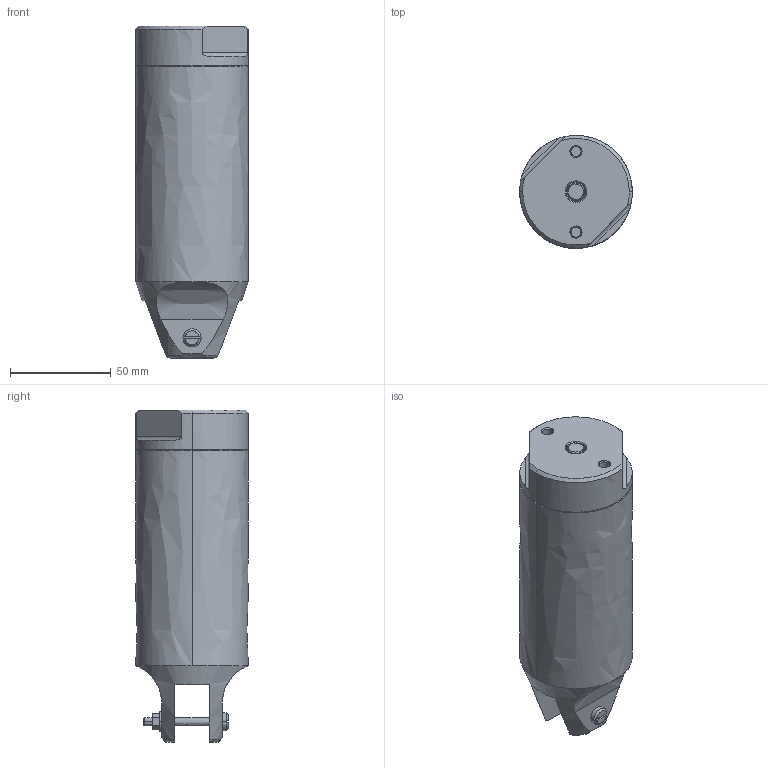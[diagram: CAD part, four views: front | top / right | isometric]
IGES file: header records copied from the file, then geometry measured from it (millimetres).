
Start section:  PTC IGES file: 060085_gt-nr30.igs
Global section: file name: 060085_gt-nr30.igs; native system: Pro/ENGINEER by Parametric Technology Corporation; preprocessor: 2004090; author: KAIHATSU01; organization: Unknown; date: 061017.102033; units: millimetre
Bounding box: 56 x 56 x 165 mm (x, y, z)
Volume: 340621 mm3; surface area: 33671.8 mm2
Topology: 1 solids, 1 shells, 97 faces, 226 edges, 144 vertices
Faces by surface type: bspline 97
